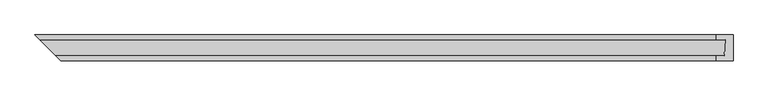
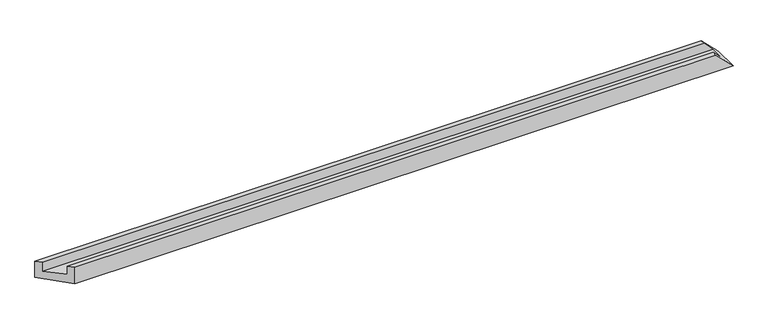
"""IFC4 building model written with IfcOpenShell, lengths in millimetres: proxy geometry, Weiku - Montante - Caixilho duplo 02.2.01.002 de canto : Weiku - Montante - Caixilho duplo 02.2.01.002 de canto."""

from ifc_helpers import new_model, si_unit, origin, place, context, project, spatial, faceted_brep, source, transform, mapped, element, save


def generic_models_a9c1022d(model_context):
    return source(origin(), model_context, "Body", "Brep", [
        faceted_brep([(946.5, 15.0, 52.0), (972.5, 15.0, 26.0), (-1013.5, 15.0, 26.0), (-1013.5, 15.0, 52.0), (974.7229744, 62.0, 23.7770256), (-1060.5, 62.0, 23.7770256), (946.5, 62.0, 52.0), (-1060.5, 62.0, 52.0), (946.5, 77.0, 52.0), (-1075.5, 77.0, 52.0), (998.5, 77.0, 0.0), (-1075.5, 77.0, 0.0), (998.5, 0.0, 0.0), (-998.5, 0.0, 0.0), (946.5, 0.0, 52.0), (-998.5, 0.0, 52.0)], [[[0, 1, 2, 3]], [[1, 4, 5, 2]], [[4, 6, 7, 5]], [[6, 8, 9, 7]], [[8, 10, 11, 9]], [[10, 12, 13, 11]], [[12, 14, 15, 13]], [[14, 0, 3, 15]], [[3, 2, 5, 7, 9, 11, 13, 15]], [[1, 0, 14, 12, 10, 8, 6, 4]]]),
    ])


if __name__ == "__main__":
    model = new_model("IFC4")
    model_context = context("Model", 3, world=origin())
    ifc_project = project(units=[si_unit("LENGTHUNIT", "METRE", prefix="MILLI")], contexts=[model_context])
    site = spatial("IfcSite", under=ifc_project)
    building = spatial("IfcBuilding", under=site)
    placement = place(None, origin())
    generic_models_shape = generic_models_a9c1022d(model_context)
    element("IfcBuildingElementProxy", 1, Name="Weiku - Montante - Caixilho duplo 02.2.01.002 de canto : Weiku - Montante - Caixilho duplo 02.2.01.002 de canto", ObjectType="Weiku - Montante - Caixilho duplo 02.2.01.002 de canto : Weiku - Montante - Caixilho duplo 02.2.01.002 de canto", at=placement, inside=building, context=model_context, shape_type="MappedRepresentation", body=[
        mapped(generic_models_shape, transform((0.0, 0.0, 0.0), x_axis=(1.0, 0.0, 0.0), y_axis=(0.0, 1.0, 0.0), z_axis=(0.0, 0.0, 1.0))),
    ])
    save(model, "model.ifc")
